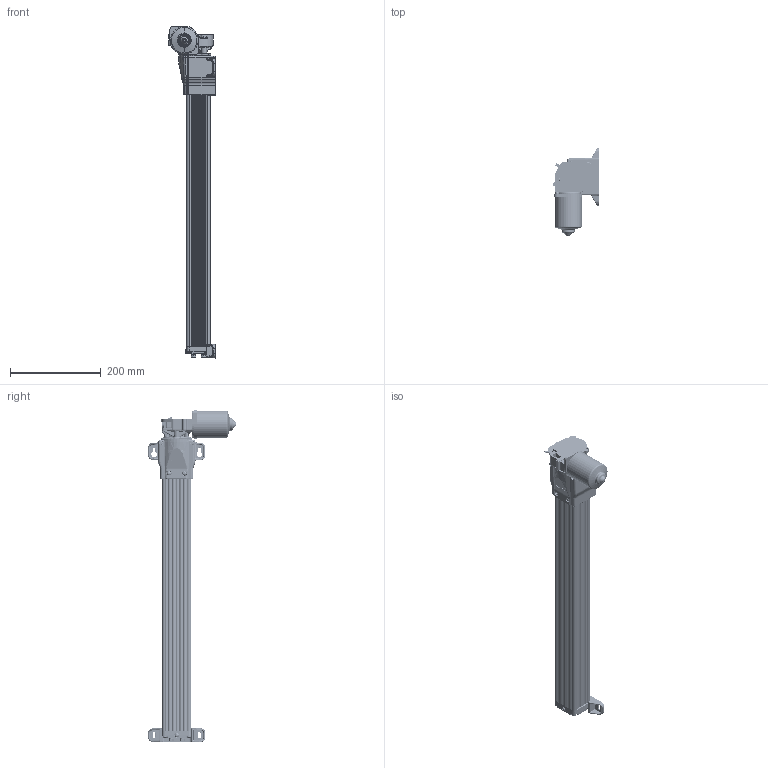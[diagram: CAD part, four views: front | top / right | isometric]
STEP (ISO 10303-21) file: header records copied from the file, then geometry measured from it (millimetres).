
FILE_DESCRIPTION (( 'STEP AP203' ), '1' );
FILE_NAME ('QXY23 Motor.STEP', '2014-01-22T20:48:50', ( '' ), ( '' ), 'SwSTEP 2.0', 'SolidWorks 2013', '' );
FILE_SCHEMA (( 'CONFIG_CONTROL_DESIGN' ));
Length unit declared in the file: millimetre
Products named in the file (1): QXY23 Motor
Bounding box: 102.7 x 193.55 x 732.97 mm (x, y, z)
Volume: 980276.8 mm3; surface area: 466445.9 mm2
Topology: 28 solids, 28 shells, 4939 faces, 11979 edges, 7174 vertices
Faces by surface type: cylinder 1559, plane 1104, torus 904, cone 683, bspline 616, sphere 73
Entity records: 164104 total; most frequent: CARTESIAN_POINT 51563, DIRECTION 24229, ORIENTED_EDGE 23768, EDGE_CURVE 11884, AXIS2_PLACEMENT_3D 9949, VERTEX_POINT 7170, CIRCLE 5625, EDGE_LOOP 5194
